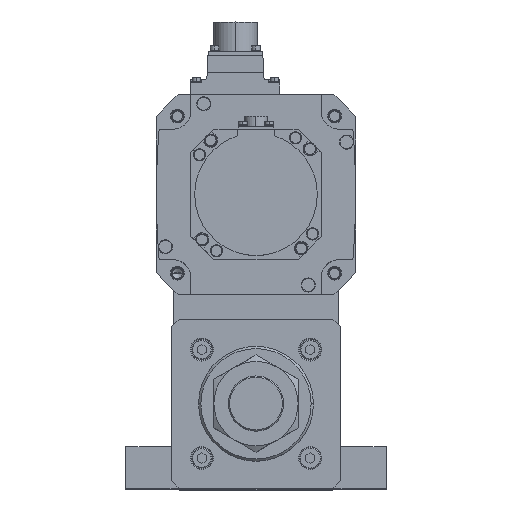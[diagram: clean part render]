
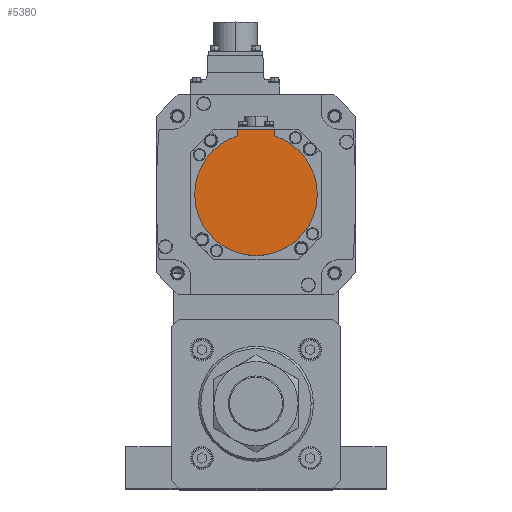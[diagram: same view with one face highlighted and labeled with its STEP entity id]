
A CAD part, top view. The second image highlights one B-rep face of the part: STEP entity #5380.
In plain terms, the highlighted planar face has unit normal (0, 0, 1) as drawn and (0, 0, -1) by its records, which use the part's own axes.
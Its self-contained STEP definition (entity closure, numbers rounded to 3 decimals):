
#536 = CARTESIAN_POINT ( 'NONE',  ( 0., 0., -132.5 ) ) ;
#774 = DIRECTION ( 'NONE',  ( 1., 0., 0. ) ) ;
#1167 = PLANE ( 'NONE',  #21109 ) ;
#1342 = DIRECTION ( 'NONE',  ( 0., 1., 0. ) ) ;
#1650 = CARTESIAN_POINT ( 'NONE',  ( 40., 0., -132.5 ) ) ;
#1766 = LINE ( 'NONE', #4195, #33778 ) ;
#2182 = VERTEX_POINT ( 'NONE', #33764 ) ;
#2882 = CARTESIAN_POINT ( 'NONE',  ( -12., -38.158, -132.5 ) ) ;
#3073 = LINE ( 'NONE', #22328, #29600 ) ;
#3203 = AXIS2_PLACEMENT_3D ( 'NONE', #26955, #7696, #21532 ) ;
#3899 = DIRECTION ( 'NONE',  ( 0., 1., 0. ) ) ;
#4195 = CARTESIAN_POINT ( 'NONE',  ( -12., -40.329, -132.5 ) ) ;
#5380 = ADVANCED_FACE ( 'NONE', ( #22913 ), #1167, .F. ) ;
#5948 = DIRECTION ( 'NONE',  ( 0., 0., 1. ) ) ;
#7643 = EDGE_CURVE ( 'NONE', #2182, #18372, #30427, .T. ) ;
#7696 = DIRECTION ( 'NONE',  ( 0., 0., 1. ) ) ;
#8400 = ORIENTED_EDGE ( 'NONE', *, *, #26282, .F. ) ;
#8982 = CARTESIAN_POINT ( 'NONE',  ( 0., -42.5, -132.5 ) ) ;
#9449 = VERTEX_POINT ( 'NONE', #1650 ) ;
#10721 = EDGE_LOOP ( 'NONE', ( #28937, #25040, #26019, #33593, #8400, #19695 ) ) ;
#12033 = DIRECTION ( 'NONE',  ( -1., 0., 0. ) ) ;
#12501 = CIRCLE ( 'NONE', #3203, 40. ) ;
#12774 = VERTEX_POINT ( 'NONE', #29344 ) ;
#17085 = CARTESIAN_POINT ( 'NONE',  ( -12., -42.5, -132.5 ) ) ;
#17194 = CARTESIAN_POINT ( 'NONE',  ( 0., -1.249, -132.5 ) ) ;
#17614 = AXIS2_PLACEMENT_3D ( 'NONE', #33041, #21742, #32574 ) ;
#18372 = VERTEX_POINT ( 'NONE', #17085 ) ;
#19051 = EDGE_CURVE ( 'NONE', #12774, #9449, #34319, .T. ) ;
#19695 = ORIENTED_EDGE ( 'NONE', *, *, #7643, .T. ) ;
#19979 = DIRECTION ( 'NONE',  ( 1., 0., 0. ) ) ;
#21097 = VERTEX_POINT ( 'NONE', #34326 ) ;
#21109 = AXIS2_PLACEMENT_3D ( 'NONE', #17194, #25513, #19979 ) ;
#21532 = DIRECTION ( 'NONE',  ( 1., 0., 0. ) ) ;
#21742 = DIRECTION ( 'NONE',  ( 0., 0., 1. ) ) ;
#22328 = CARTESIAN_POINT ( 'NONE',  ( 12., -1.249, -132.5 ) ) ;
#22913 = FACE_OUTER_BOUND ( 'NONE', #10721, .T. ) ;
#23231 = VECTOR ( 'NONE', #12033, 1000. ) ;
#23950 = EDGE_CURVE ( 'NONE', #21097, #25592, #34446, .T. ) ;
#25040 = ORIENTED_EDGE ( 'NONE', *, *, #23950, .F. ) ;
#25513 = DIRECTION ( 'NONE',  ( 0., 0., 1. ) ) ;
#25592 = VERTEX_POINT ( 'NONE', #2882 ) ;
#26019 = ORIENTED_EDGE ( 'NONE', *, *, #34172, .F. ) ;
#26282 = EDGE_CURVE ( 'NONE', #2182, #12774, #3073, .T. ) ;
#26955 = CARTESIAN_POINT ( 'NONE',  ( 0., 0., -132.5 ) ) ;
#26978 = EDGE_CURVE ( 'NONE', #18372, #25592, #1766, .T. ) ;
#28039 = AXIS2_PLACEMENT_3D ( 'NONE', #536, #5948, #774 ) ;
#28937 = ORIENTED_EDGE ( 'NONE', *, *, #26978, .T. ) ;
#29344 = CARTESIAN_POINT ( 'NONE',  ( 12., -38.158, -132.5 ) ) ;
#29600 = VECTOR ( 'NONE', #3899, 1000. ) ;
#30427 = LINE ( 'NONE', #8982, #23231 ) ;
#32574 = DIRECTION ( 'NONE',  ( 1., 0., 0. ) ) ;
#33041 = CARTESIAN_POINT ( 'NONE',  ( 0., 0., -132.5 ) ) ;
#33593 = ORIENTED_EDGE ( 'NONE', *, *, #19051, .F. ) ;
#33764 = CARTESIAN_POINT ( 'NONE',  ( 12., -42.5, -132.5 ) ) ;
#33778 = VECTOR ( 'NONE', #1342, 1000. ) ;
#34172 = EDGE_CURVE ( 'NONE', #9449, #21097, #12501, .T. ) ;
#34319 = CIRCLE ( 'NONE', #28039, 40. ) ;
#34326 = CARTESIAN_POINT ( 'NONE',  ( -40., 0., -132.5 ) ) ;
#34446 = CIRCLE ( 'NONE', #17614, 40. ) ;
